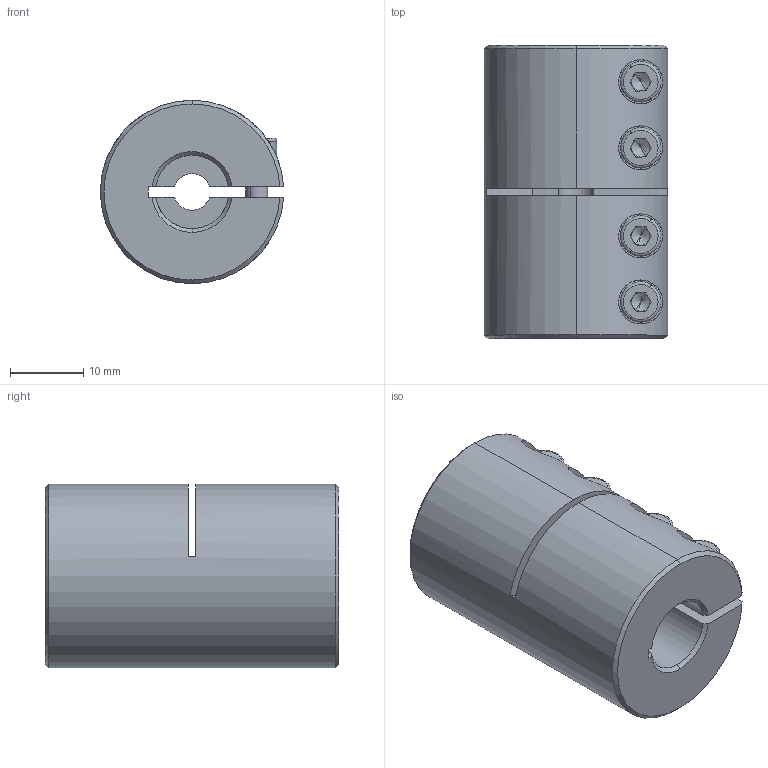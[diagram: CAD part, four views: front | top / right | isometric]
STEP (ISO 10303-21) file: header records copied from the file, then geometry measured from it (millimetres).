
FILE_DESCRIPTION (( 'STEP AP214' ), '1' );
FILE_NAME ('LL-B-D25L40-5-10½¨Ä£.STEP', '2022-07-21T05:03:58', ( '' ), ( '' ), 'SwSTEP 2.0', 'SolidWorks 2022', '' );
FILE_SCHEMA (( 'AUTOMOTIVE_DESIGN' ));
Length unit declared in the file: millimetre
Products named in the file (1): LL-B-D25L40-5-10膘耀
Bounding box: 24.98 x 40 x 25 mm (x, y, z)
Volume: 16560.9 mm3; surface area: 7151.9 mm2
Topology: 1 solids, 1 shells, 178 faces, 455 edges, 287 vertices
Faces by surface type: plane 85, cylinder 65, cone 20, torus 8
Entity records: 5838 total; most frequent: CARTESIAN_POINT 1437, DIRECTION 946, ORIENTED_EDGE 894, EDGE_CURVE 447, AXIS2_PLACEMENT_3D 364, VERTEX_POINT 287, LINE 218, VECTOR 218
